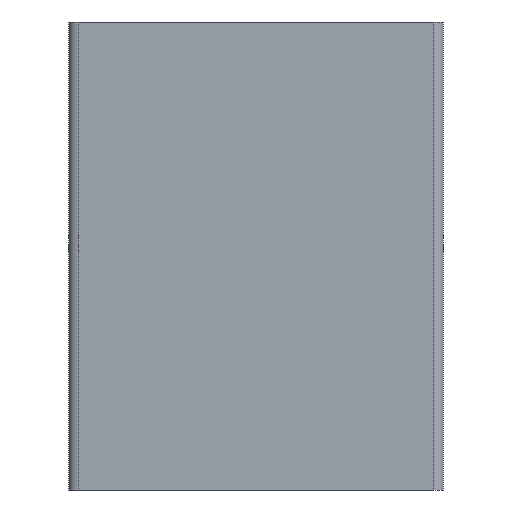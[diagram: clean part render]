
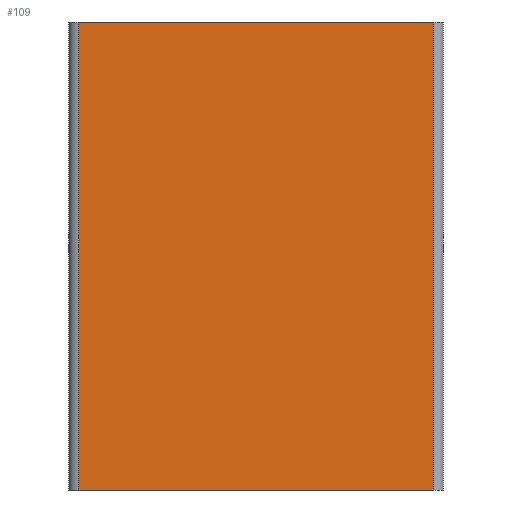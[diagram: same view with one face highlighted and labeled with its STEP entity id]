
A CAD part, left-side view. The second image highlights one B-rep face of the part: STEP entity #109.
In plain terms, the highlighted planar face has unit normal (-1, 0, 0).
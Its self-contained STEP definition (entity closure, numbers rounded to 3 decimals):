
#109 = ADVANCED_FACE ( 'NONE', ( #973 ), #974, .F. ) ;
#445 = VERTEX_POINT ( 'NONE', #1692 ) ;
#462 = EDGE_CURVE ( 'NONE', #445, #3739, #1890, .T. ) ;
#973 = FACE_OUTER_BOUND ( 'NONE', #3609, .T. ) ;
#974 = PLANE ( 'NONE',  #975 ) ;
#975 = AXIS2_PLACEMENT_3D ( 'NONE', #976, #977, #978 ) ;
#976 = CARTESIAN_POINT ( 'NONE',  ( -125., 1., 50. ) ) ;
#977 = DIRECTION ( 'NONE',  ( 1., 0., 0. ) ) ;
#978 = DIRECTION ( 'NONE',  ( 0., 0., -1. ) ) ;
#1001 = CARTESIAN_POINT ( 'NONE',  ( -125., 39., 0. ) ) ;
#1498 = LINE ( 'NONE', #1499, #1500 ) ;
#1499 = CARTESIAN_POINT ( 'NONE',  ( -125., 1., 50. ) ) ;
#1500 = VECTOR ( 'NONE', #1501, 1000. ) ;
#1501 = DIRECTION ( 'NONE',  ( 0., -1., 0. ) ) ;
#1692 = CARTESIAN_POINT ( 'NONE',  ( -125., 39., 50. ) ) ;
#1890 = LINE ( 'NONE', #1891, #1892 ) ;
#1891 = CARTESIAN_POINT ( 'NONE',  ( -125., 39., 50. ) ) ;
#1892 = VECTOR ( 'NONE', #1898, 1000. ) ;
#1898 = DIRECTION ( 'NONE',  ( 0., 0., -1. ) ) ;
#1955 = ORIENTED_EDGE ( 'NONE', *, *, #3926, .F. ) ;
#2139 = CARTESIAN_POINT ( 'NONE',  ( -125., 1., 50. ) ) ;
#2214 = LINE ( 'NONE', #2215, #2216 ) ;
#2215 = CARTESIAN_POINT ( 'NONE',  ( -125., 1., 50. ) ) ;
#2216 = VECTOR ( 'NONE', #2217, 1000. ) ;
#2217 = DIRECTION ( 'NONE',  ( 0., 0., -1. ) ) ;
#2482 = VERTEX_POINT ( 'NONE', #2840 ) ;
#2714 = EDGE_CURVE ( 'NONE', #3739, #2482, #2925, .T. ) ;
#2840 = CARTESIAN_POINT ( 'NONE',  ( -125., 1., 0. ) ) ;
#2925 = LINE ( 'NONE', #2926, #2927 ) ;
#2926 = CARTESIAN_POINT ( 'NONE',  ( -125., 1., 0. ) ) ;
#2927 = VECTOR ( 'NONE', #2928, 1000. ) ;
#2928 = DIRECTION ( 'NONE',  ( 0., -1., 0. ) ) ;
#3073 = ORIENTED_EDGE ( 'NONE', *, *, #2714, .T. ) ;
#3609 = EDGE_LOOP ( 'NONE', ( #3073, #1955, #3866, #3800 ) ) ;
#3739 = VERTEX_POINT ( 'NONE', #1001 ) ;
#3800 = ORIENTED_EDGE ( 'NONE', *, *, #462, .T. ) ;
#3833 = EDGE_CURVE ( 'NONE', #445, #3913, #1498, .T. ) ;
#3866 = ORIENTED_EDGE ( 'NONE', *, *, #3833, .F. ) ;
#3913 = VERTEX_POINT ( 'NONE', #2139 ) ;
#3926 = EDGE_CURVE ( 'NONE', #3913, #2482, #2214, .T. ) ;
